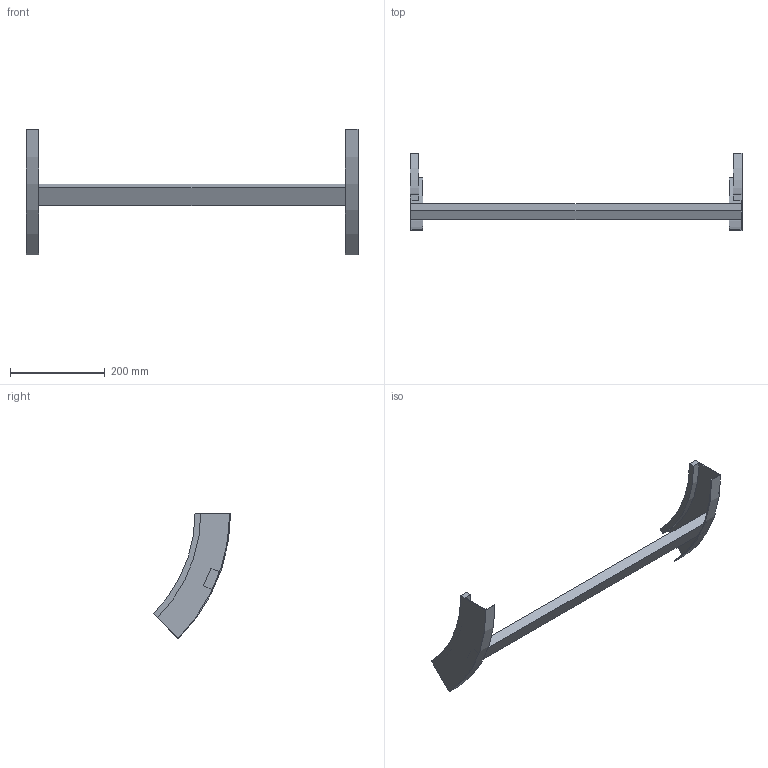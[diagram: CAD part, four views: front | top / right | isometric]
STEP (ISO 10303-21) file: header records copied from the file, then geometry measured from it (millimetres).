
FILE_DESCRIPTION (( 'STEP AP214' ), '1' );
FILE_NAME ('B2X31B3C700XX.step', '2025-03-20T10:10:33', ( '' ), ( '' ), 'SwSTEP 2.0', 'SolidWorks 2023', '' );
FILE_SCHEMA (( 'AUTOMOTIVE_DESIGN' ));
Length unit declared in the file: millimetre
Products named in the file (3): B2_LONGH.SALITA_45°_H75_R300; TRAVERSINO_700; B2X31B3C700XX
Assembly tree (3 placements, depth 2):
  B2X31B3C700XX
    B2_LONGH.SALITA_45°_H75_R300  x2
    TRAVERSINO_700
Bounding box: 700 x 162.87 x 265.17 mm (x, y, z)
Volume: 764942.9 mm3; surface area: 213801.3 mm2
Topology: 3 solids, 3 shells, 26 faces, 60 edges, 40 vertices
Faces by surface type: plane 18, cylinder 8
Entity records: 544 total; most frequent: DIRECTION 88, CARTESIAN_POINT 82, ORIENTED_EDGE 72, EDGE_CURVE 36, AXIS2_PLACEMENT_3D 30, VECTOR 28, LINE 28, VERTEX_POINT 24
